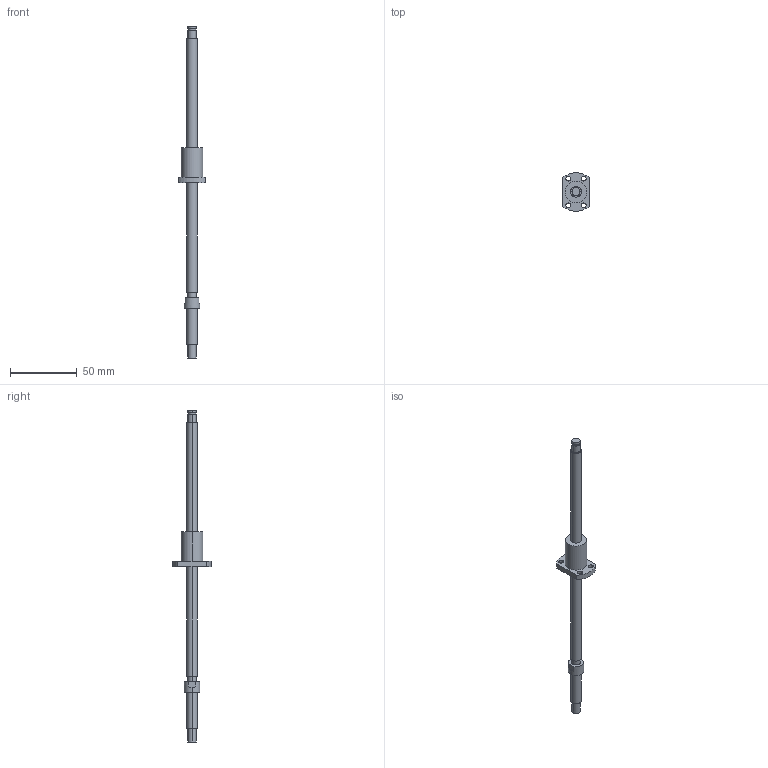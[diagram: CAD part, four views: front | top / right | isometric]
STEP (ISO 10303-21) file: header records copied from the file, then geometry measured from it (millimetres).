
FILE_DESCRIPTION((''),'2;1');
FILE_NAME('R8-2T3-FSI-190-248','2008-03-28T',('mahdi'),(''),'PRO/ENGINEER BY PARAMETRIC TECHNOLOGY CORPORATION, 2005070','PRO/ENGINEER BY PARAMETRIC TECHNOLOGY CORPORATION, 2005070','');
FILE_SCHEMA(('CONFIG_CONTROL_DESIGN'));
Length unit declared in the file: millimetre
Products named in the file (1): R8-2T3-FSI-190-248
Bounding box: 20 x 28.9 x 248 mm (x, y, z)
Volume: 17465.8 mm3; surface area: 8282.6 mm2
Topology: 1 solids, 1 shells, 48 faces, 108 edges, 72 vertices
Faces by surface type: cylinder 30, plane 18
Entity records: 1430 total; most frequent: DIRECTION 268, CARTESIAN_POINT 228, ORIENTED_EDGE 216, AXIS2_PLACEMENT_3D 112, EDGE_CURVE 108, VERTEX_POINT 72, EDGE_LOOP 66, CIRCLE 64
